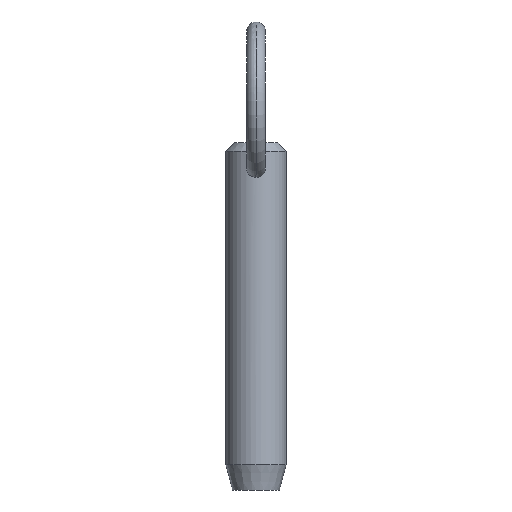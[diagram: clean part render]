
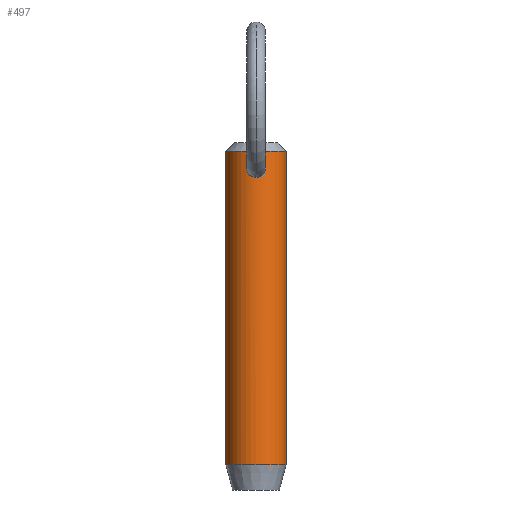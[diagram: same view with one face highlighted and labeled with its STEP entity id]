
A CAD part, front view. The second image highlights one B-rep face of the part: STEP entity #497.
In plain terms, the highlighted cylindrical face has radius 4.76 mm (diameter 9.52 mm), a partial arc.
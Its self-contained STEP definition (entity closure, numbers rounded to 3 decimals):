
#2 = VERTEX_POINT ( 'NONE', #289 ) ;
#7 = CARTESIAN_POINT ( 'NONE',  ( 1.293, -4.582, 38.942 ) ) ;
#10 = CARTESIAN_POINT ( 'NONE',  ( 1.24, -4.596, 37.16 ) ) ;
#40 = EDGE_CURVE ( 'NONE', #2, #306, #487, .T. ) ;
#44 = CARTESIAN_POINT ( 'NONE',  ( 1.434, -4.539, 38.554 ) ) ;
#48 = CARTESIAN_POINT ( 'NONE',  ( 0.411, -4.743, 36.577 ) ) ;
#49 = VECTOR ( 'NONE', #379, 1000. ) ;
#57 = CARTESIAN_POINT ( 'NONE',  ( 0.208, -4.757, 36.536 ) ) ;
#74 = ORIENTED_EDGE ( 'NONE', *, *, #40, .T. ) ;
#79 = EDGE_CURVE ( 'NONE', #406, #130, #316, .T. ) ;
#89 = CARTESIAN_POINT ( 'NONE',  ( 0.687, -4.711, 39.635 ) ) ;
#91 = CARTESIAN_POINT ( 'NONE',  ( 0., -4.76, 39.848 ) ) ;
#116 = CARTESIAN_POINT ( 'NONE',  ( -0.793, -4.694, 36.739 ) ) ;
#117 = CARTESIAN_POINT ( 'NONE',  ( -0.703, -4.709, 36.689 ) ) ;
#126 = VERTEX_POINT ( 'NONE', #131 ) ;
#130 = VERTEX_POINT ( 'NONE', #449 ) ;
#131 = CARTESIAN_POINT ( 'NONE',  ( 0., -4.76, 36.526 ) ) ;
#132 = CARTESIAN_POINT ( 'NONE',  ( 0.409, -4.743, 39.778 ) ) ;
#142 = DIRECTION ( 'NONE',  ( -1., 0., 0. ) ) ;
#156 = CARTESIAN_POINT ( 'NONE',  ( -1.247, -4.596, 37.152 ) ) ;
#157 = CARTESIAN_POINT ( 'NONE',  ( -1.508, -4.515, 37.937 ) ) ;
#163 = CARTESIAN_POINT ( 'NONE',  ( 0.506, -4.734, 39.737 ) ) ;
#165 = DIRECTION ( 'NONE',  ( 0., 0., 1. ) ) ;
#167 = CARTESIAN_POINT ( 'NONE',  ( -1.292, -4.582, 38.945 ) ) ;
#171 = CARTESIAN_POINT ( 'NONE',  ( 1.473, -4.526, 37.731 ) ) ;
#191 = B_SPLINE_CURVE_WITH_KNOTS ( 'NONE', 3,
 ( #232, #520, #350, #117, #116, #392, #230, #156, #437, #308, #157, #438, #407, #167, #203, #464, #457, #421, #219, #501, #506, #257 ),
 .UNSPECIFIED., .F., .F.,
 ( 4, 2, 2, 2, 2, 2, 2, 2, 2, 2, 4 ),
 ( 0.009, 0.01, 0.01, 0.011, 0.011, 0.012, 0.012, 0.013, 0.014, 0.014, 0.014 ),
 .UNSPECIFIED. ) ;
#199 = CARTESIAN_POINT ( 'NONE',  ( 0.77, -4.698, 39.575 ) ) ;
#200 = CARTESIAN_POINT ( 'NONE',  ( 4.76, 0., 35.6 ) ) ;
#203 = CARTESIAN_POINT ( 'NONE',  ( -1.19, -4.611, 39.124 ) ) ;
#206 = CARTESIAN_POINT ( 'NONE',  ( 0.104, -4.76, 39.848 ) ) ;
#219 = CARTESIAN_POINT ( 'NONE',  ( -0.409, -4.743, 39.778 ) ) ;
#220 = DIRECTION ( 'NONE',  ( 0., 0., -1. ) ) ;
#230 = CARTESIAN_POINT ( 'NONE',  ( -1.039, -4.646, 36.926 ) ) ;
#232 = CARTESIAN_POINT ( 'NONE',  ( 0., -4.76, 36.526 ) ) ;
#239 = CARTESIAN_POINT ( 'NONE',  ( 1.404, -4.548, 38.653 ) ) ;
#241 = CARTESIAN_POINT ( 'NONE',  ( 0.997, -4.655, 39.364 ) ) ;
#249 = CARTESIAN_POINT ( 'NONE',  ( 0.209, -4.756, 39.834 ) ) ;
#252 = CARTESIAN_POINT ( 'NONE',  ( -4.76, 0., 35.6 ) ) ;
#253 = CARTESIAN_POINT ( 'NONE',  ( 0.105, -4.76, 36.526 ) ) ;
#257 = CARTESIAN_POINT ( 'NONE',  ( 0., -4.76, 39.848 ) ) ;
#261 = EDGE_CURVE ( 'NONE', #2, #130, #416, .T. ) ;
#263 = CYLINDRICAL_SURFACE ( 'NONE', #385, 4.76 ) ;
#264 = CARTESIAN_POINT ( 'NONE',  ( 0., 0., 40.65 ) ) ;
#266 = ORIENTED_EDGE ( 'NONE', *, *, #395, .T. ) ;
#267 = DIRECTION ( 'NONE',  ( 0., 0., -1. ) ) ;
#271 = FACE_OUTER_BOUND ( 'NONE', #396, .T. ) ;
#275 = CARTESIAN_POINT ( 'NONE',  ( 1.492, -4.52, 38.248 ) ) ;
#276 = EDGE_CURVE ( 'NONE', #296, #126, #515, .T. ) ;
#277 = CARTESIAN_POINT ( 'NONE',  ( 1.178, -4.613, 37.076 ) ) ;
#280 = CARTESIAN_POINT ( 'NONE',  ( -4.76, 0., -8.7 ) ) ;
#287 = ORIENTED_EDGE ( 'NONE', *, *, #514, .T. ) ;
#289 = CARTESIAN_POINT ( 'NONE',  ( 4.76, 0., 40.65 ) ) ;
#293 = CARTESIAN_POINT ( 'NONE',  ( 0.512, -4.733, 36.608 ) ) ;
#295 = LINE ( 'NONE', #252, #49 ) ;
#296 = VERTEX_POINT ( 'NONE', #91 ) ;
#297 = CARTESIAN_POINT ( 'NONE',  ( -4.76, 0., 40.65 ) ) ;
#305 = ORIENTED_EDGE ( 'NONE', *, *, #261, .F. ) ;
#306 = VERTEX_POINT ( 'NONE', #297 ) ;
#308 = CARTESIAN_POINT ( 'NONE',  ( -1.483, -4.524, 37.726 ) ) ;
#313 = EDGE_LOOP ( 'NONE', ( #401, #266 ) ) ;
#316 = CIRCLE ( 'NONE', #375, 4.76 ) ;
#319 = CARTESIAN_POINT ( 'NONE',  ( 0., 0., -8.7 ) ) ;
#320 = CARTESIAN_POINT ( 'NONE',  ( 1.478, -4.525, 38.352 ) ) ;
#324 = CARTESIAN_POINT ( 'NONE',  ( 1.499, -4.518, 37.937 ) ) ;
#327 = CARTESIAN_POINT ( 'NONE',  ( 0., -4.76, 39.848 ) ) ;
#349 = DIRECTION ( 'NONE',  ( 1., 0., 0. ) ) ;
#350 = CARTESIAN_POINT ( 'NONE',  ( -0.416, -4.746, 36.567 ) ) ;
#361 = CARTESIAN_POINT ( 'NONE',  ( 1.45, -4.534, 37.628 ) ) ;
#369 = CARTESIAN_POINT ( 'NONE',  ( 1.503, -4.517, 38.04 ) ) ;
#370 = CARTESIAN_POINT ( 'NONE',  ( 0., 0., 35.6 ) ) ;
#375 = AXIS2_PLACEMENT_3D ( 'NONE', #319, #165, #493 ) ;
#379 = DIRECTION ( 'NONE',  ( 0., 0., -1. ) ) ;
#385 = AXIS2_PLACEMENT_3D ( 'NONE', #370, #220, #142 ) ;
#392 = CARTESIAN_POINT ( 'NONE',  ( -0.961, -4.663, 36.857 ) ) ;
#395 = EDGE_CURVE ( 'NONE', #126, #296, #191, .T. ) ;
#396 = EDGE_LOOP ( 'NONE', ( #305, #74, #287, #427 ) ) ;
#399 = FACE_BOUND ( 'NONE', #313, .T. ) ;
#401 = ORIENTED_EDGE ( 'NONE', *, *, #276, .T. ) ;
#406 = VERTEX_POINT ( 'NONE', #280 ) ;
#407 = CARTESIAN_POINT ( 'NONE',  ( -1.441, -4.537, 38.557 ) ) ;
#408 = CARTESIAN_POINT ( 'NONE',  ( 1.385, -4.554, 37.432 ) ) ;
#411 = CARTESIAN_POINT ( 'NONE',  ( 1.19, -4.611, 39.124 ) ) ;
#416 = LINE ( 'NONE', #200, #473 ) ;
#421 = CARTESIAN_POINT ( 'NONE',  ( -0.504, -4.734, 39.738 ) ) ;
#427 = ORIENTED_EDGE ( 'NONE', *, *, #79, .T. ) ;
#437 = CARTESIAN_POINT ( 'NONE',  ( -1.353, -4.564, 37.335 ) ) ;
#438 = CARTESIAN_POINT ( 'NONE',  ( -1.487, -4.522, 38.353 ) ) ;
#444 = DIRECTION ( 'NONE',  ( 0., 0., -1. ) ) ;
#449 = CARTESIAN_POINT ( 'NONE',  ( 4.76, 0., -8.7 ) ) ;
#453 = CARTESIAN_POINT ( 'NONE',  ( 0.97, -4.662, 36.85 ) ) ;
#456 = CARTESIAN_POINT ( 'NONE',  ( 0., -4.76, 36.526 ) ) ;
#457 = CARTESIAN_POINT ( 'NONE',  ( -0.777, -4.7, 39.585 ) ) ;
#464 = CARTESIAN_POINT ( 'NONE',  ( -0.932, -4.67, 39.445 ) ) ;
#473 = VECTOR ( 'NONE', #444, 1000. ) ;
#487 = CIRCLE ( 'NONE', #499, 4.76 ) ;
#490 = CARTESIAN_POINT ( 'NONE',  ( 0.925, -4.67, 39.439 ) ) ;
#493 = DIRECTION ( 'NONE',  ( -1., 0., 0. ) ) ;
#495 = CARTESIAN_POINT ( 'NONE',  ( 1.344, -4.567, 37.339 ) ) ;
#496 = CARTESIAN_POINT ( 'NONE',  ( 0.797, -4.697, 36.729 ) ) ;
#497 = ADVANCED_FACE ( 'NONE', ( #271, #399 ), #263, .T. ) ;
#499 = AXIS2_PLACEMENT_3D ( 'NONE', #264, #267, #349 ) ;
#501 = CARTESIAN_POINT ( 'NONE',  ( -0.208, -4.757, 39.834 ) ) ;
#506 = CARTESIAN_POINT ( 'NONE',  ( -0.103, -4.76, 39.848 ) ) ;
#514 = EDGE_CURVE ( 'NONE', #306, #406, #295, .T. ) ;
#515 = B_SPLINE_CURVE_WITH_KNOTS ( 'NONE', 3,
 ( #327, #206, #249, #132, #163, #89, #199, #490, #241, #411, #7, #239, #44, #320, #275, #369, #324, #171, #361, #408, #495, #10, #277, #453, #496, #293, #48, #57, #253, #456 ),
 .UNSPECIFIED., .F., .F.,
 ( 4, 2, 2, 2, 2, 2, 2, 2, 2, 2, 2, 2, 2, 2, 4 ),
 ( 0.004, 0.005, 0.005, 0.005, 0.006, 0.006, 0.007, 0.007, 0.007, 0.007, 0.008, 0.008, 0.009, 0.009, 0.009 ),
 .UNSPECIFIED. ) ;
#520 = CARTESIAN_POINT ( 'NONE',  ( -0.21, -4.76, 36.526 ) ) ;
